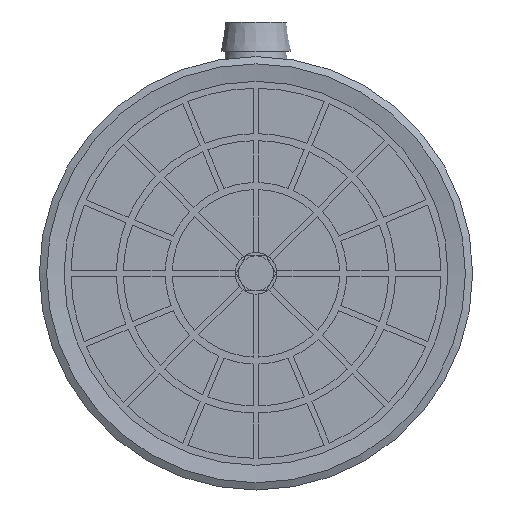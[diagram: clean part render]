
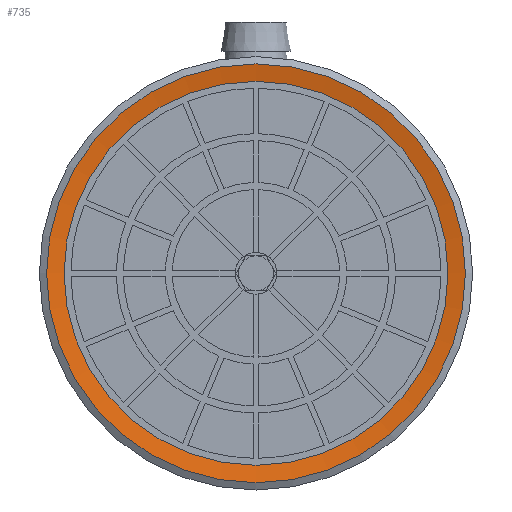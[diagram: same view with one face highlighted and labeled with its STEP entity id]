
A CAD part, front view. The second image highlights one B-rep face of the part: STEP entity #735.
In plain terms, the highlighted conical face has half-angle 80 degrees and reference radius 15 mm.
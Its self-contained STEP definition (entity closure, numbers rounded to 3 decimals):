
#735=ADVANCED_FACE('',(#1414,#1415),#1416,.F.);
#1414=FACE_BOUND('',#2240,.T.);
#1415=FACE_OUTER_BOUND('',#2241,.T.);
#1416=CONICAL_SURFACE('',#2242,15.0,1.396);
#2240=EDGE_LOOP('',(#4192));
#2241=EDGE_LOOP('',(#4193));
#2242=AXIS2_PLACEMENT_3D('',#4194,#4195,#4196);
#4192=ORIENTED_EDGE('',*,*,#5794,.T.);
#4193=ORIENTED_EDGE('',*,*,#5789,.F.);
#4194=CARTESIAN_POINT('',(0.0,0.,0.));
#4195=DIRECTION('',(0.0,0.,-1.0));
#4196=DIRECTION('',(0.0,1.0,0.));
#5789=EDGE_CURVE('',#7042,#7042,#7043,.T.);
#5794=EDGE_CURVE('',#7051,#7051,#7052,.T.);
#7042=VERTEX_POINT('',#9104);
#7043=CIRCLE('',#9105,15.0);
#7051=VERTEX_POINT('',#9115);
#7052=CIRCLE('',#9116,13.75);
#9104=CARTESIAN_POINT('',(0.0,-15.0,0.));
#9105=AXIS2_PLACEMENT_3D('',#10448,#10449,#10450);
#9115=CARTESIAN_POINT('',(0.0,-13.75,0.22));
#9116=AXIS2_PLACEMENT_3D('',#10459,#10460,#10461);
#10448=CARTESIAN_POINT('',(0.0,0.,0.));
#10449=DIRECTION('',(0.0,0.,1.0));
#10450=DIRECTION('',(0.0,-1.0,0.));
#10459=CARTESIAN_POINT('',(0.0,0.,0.22));
#10460=DIRECTION('',(0.0,0.,1.0));
#10461=DIRECTION('',(0.0,-1.0,0.));
